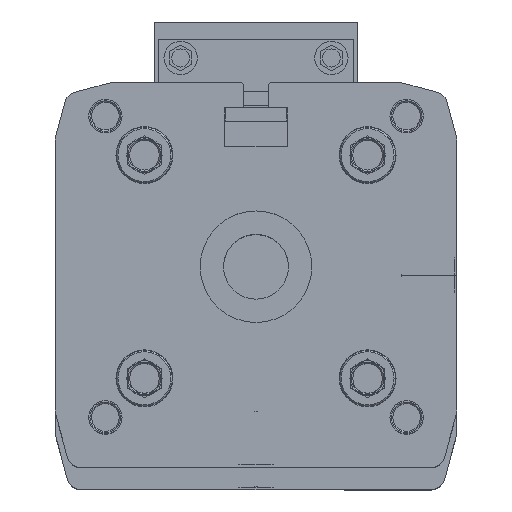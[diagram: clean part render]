
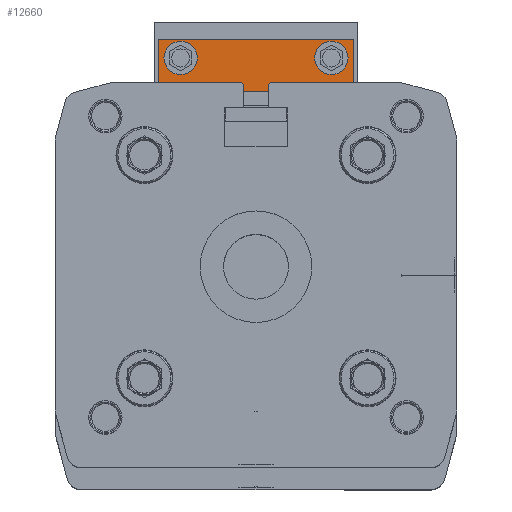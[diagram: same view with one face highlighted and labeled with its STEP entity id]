
A CAD part, top view. The second image highlights one B-rep face of the part: STEP entity #12660.
In plain terms, the highlighted planar face has unit normal (0, 0, 1) as drawn and (-1, 0, 0) by its records, which use the part's own axes.
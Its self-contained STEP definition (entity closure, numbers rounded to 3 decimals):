
#12539 = VERTEX_POINT ( 'NONE', #36458 ) ;
#12540 = VERTEX_POINT ( 'NONE', #36457 ) ;
#12595 = EDGE_CURVE ( 'NONE', #12540, #12539, #36551, .T. ) ;
#12625 = VERTEX_POINT ( 'NONE', #36615 ) ;
#12627 = EDGE_CURVE ( 'NONE', #12628, #12625, #36614, .T. ) ;
#12628 = VERTEX_POINT ( 'NONE', #36609 ) ;
#12659 = EDGE_CURVE ( 'NONE', #12625, #12628, #36673, .T. ) ;
#12660 = ADVANCED_FACE ( 'NONE', ( #36668, #36667, #36666 ), #36665, .T. ) ;
#12661 = EDGE_LOOP ( 'NONE', ( #12662, #12663 ) ) ;
#12662 = ORIENTED_EDGE ( 'NONE', *, *, #12595, .T. ) ;
#12663 = ORIENTED_EDGE ( 'NONE', *, *, #12664, .T. ) ;
#12664 = EDGE_CURVE ( 'NONE', #12539, #12540, #36660, .T. ) ;
#12665 = EDGE_LOOP ( 'NONE', ( #12666, #12670, #12729, #12732 ) ) ;
#12666 = ORIENTED_EDGE ( 'NONE', *, *, #12667, .F. ) ;
#12667 = EDGE_CURVE ( 'NONE', #12668, #12669, #36720, .T. ) ;
#12668 = VERTEX_POINT ( 'NONE', #36716 ) ;
#12669 = VERTEX_POINT ( 'NONE', #36715 ) ;
#12670 = ORIENTED_EDGE ( 'NONE', *, *, #12728, .F. ) ;
#12671 = VERTEX_POINT ( 'NONE', #36714 ) ;
#12728 = EDGE_CURVE ( 'NONE', #12671, #12668, #36817, .T. ) ;
#12729 = ORIENTED_EDGE ( 'NONE', *, *, #12730, .F. ) ;
#12730 = EDGE_CURVE ( 'NONE', #12731, #12671, #36813, .T. ) ;
#12731 = VERTEX_POINT ( 'NONE', #36809 ) ;
#12732 = ORIENTED_EDGE ( 'NONE', *, *, #12733, .F. ) ;
#12733 = EDGE_CURVE ( 'NONE', #12669, #12731, #36808, .T. ) ;
#12734 = EDGE_LOOP ( 'NONE', ( #12735, #12736 ) ) ;
#12735 = ORIENTED_EDGE ( 'NONE', *, *, #12627, .T. ) ;
#12736 = ORIENTED_EDGE ( 'NONE', *, *, #12659, .T. ) ;
#36457 = CARTESIAN_POINT ( 'NONE',  ( -76., 0.7, 34.7 ) ) ;
#36458 = CARTESIAN_POINT ( 'NONE',  ( -76., 0.7, 28.7 ) ) ;
#36547 = DIRECTION ( 'NONE',  ( 0., 0., 1. ) ) ;
#36548 = DIRECTION ( 'NONE',  ( 1., 0., 0. ) ) ;
#36549 = CARTESIAN_POINT ( 'NONE',  ( -76., 0.7, 31.7 ) ) ;
#36550 = AXIS2_PLACEMENT_3D ( 'NONE', #36549, #36548, #36547 ) ;
#36551 = CIRCLE ( 'NONE', #36550, 3. ) ;
#36609 = CARTESIAN_POINT ( 'NONE',  ( -76., 0.7, 7.7 ) ) ;
#36610 = DIRECTION ( 'NONE',  ( 0., 0., 1. ) ) ;
#36611 = DIRECTION ( 'NONE',  ( 1., 0., 0. ) ) ;
#36612 = CARTESIAN_POINT ( 'NONE',  ( -76., 0.7, 4.7 ) ) ;
#36613 = AXIS2_PLACEMENT_3D ( 'NONE', #36612, #36611, #36610 ) ;
#36614 = CIRCLE ( 'NONE', #36613, 3. ) ;
#36615 = CARTESIAN_POINT ( 'NONE',  ( -76., 0.7, 1.7 ) ) ;
#36660 = CIRCLE ( 'NONE', #36725, 3. ) ;
#36661 = DIRECTION ( 'NONE',  ( 0., 0., -1. ) ) ;
#36662 = DIRECTION ( 'NONE',  ( -1., 0., 0. ) ) ;
#36663 = CARTESIAN_POINT ( 'NONE',  ( -76., -7.85, 35.7 ) ) ;
#36664 = AXIS2_PLACEMENT_3D ( 'NONE', #36663, #36662, #36661 ) ;
#36665 = PLANE ( 'NONE',  #36664 ) ;
#36666 = FACE_BOUND ( 'NONE', #12734, .T. ) ;
#36667 = FACE_OUTER_BOUND ( 'NONE', #12665, .T. ) ;
#36668 = FACE_BOUND ( 'NONE', #12661, .T. ) ;
#36669 = DIRECTION ( 'NONE',  ( 0., 0., 1. ) ) ;
#36670 = DIRECTION ( 'NONE',  ( 1., 0., 0. ) ) ;
#36671 = CARTESIAN_POINT ( 'NONE',  ( -76., 0.7, 4.7 ) ) ;
#36672 = AXIS2_PLACEMENT_3D ( 'NONE', #36671, #36670, #36669 ) ;
#36673 = CIRCLE ( 'NONE', #36672, 3. ) ;
#36714 = CARTESIAN_POINT ( 'NONE',  ( -76., 3.95, 35.7 ) ) ;
#36715 = CARTESIAN_POINT ( 'NONE',  ( -76., -7.15, 0.7 ) ) ;
#36716 = CARTESIAN_POINT ( 'NONE',  ( -76., -7.15, 35.7 ) ) ;
#36717 = DIRECTION ( 'NONE',  ( 0., 0., -1. ) ) ;
#36718 = VECTOR ( 'NONE', #36717, 1000. ) ;
#36719 = CARTESIAN_POINT ( 'NONE',  ( -76., -7.15, -0.25 ) ) ;
#36720 = LINE ( 'NONE', #36719, #36718 ) ;
#36722 = DIRECTION ( 'NONE',  ( 0., 0., 1. ) ) ;
#36723 = DIRECTION ( 'NONE',  ( 1., 0., 0. ) ) ;
#36724 = CARTESIAN_POINT ( 'NONE',  ( -76., 0.7, 31.7 ) ) ;
#36725 = AXIS2_PLACEMENT_3D ( 'NONE', #36724, #36723, #36722 ) ;
#36805 = DIRECTION ( 'NONE',  ( 0., 1., 0. ) ) ;
#36806 = VECTOR ( 'NONE', #36805, 1000. ) ;
#36807 = CARTESIAN_POINT ( 'NONE',  ( -76., 3.95, 0.7 ) ) ;
#36808 = LINE ( 'NONE', #36807, #36806 ) ;
#36809 = CARTESIAN_POINT ( 'NONE',  ( -76., 3.95, 0.7 ) ) ;
#36810 = DIRECTION ( 'NONE',  ( 0., 0., 1. ) ) ;
#36811 = VECTOR ( 'NONE', #36810, 1000. ) ;
#36812 = CARTESIAN_POINT ( 'NONE',  ( -76., 3.95, 35.7 ) ) ;
#36813 = LINE ( 'NONE', #36812, #36811 ) ;
#36814 = DIRECTION ( 'NONE',  ( 0., -1., 0. ) ) ;
#36815 = VECTOR ( 'NONE', #36814, 1000. ) ;
#36816 = CARTESIAN_POINT ( 'NONE',  ( -76., 3.95, 35.7 ) ) ;
#36817 = LINE ( 'NONE', #36816, #36815 ) ;
